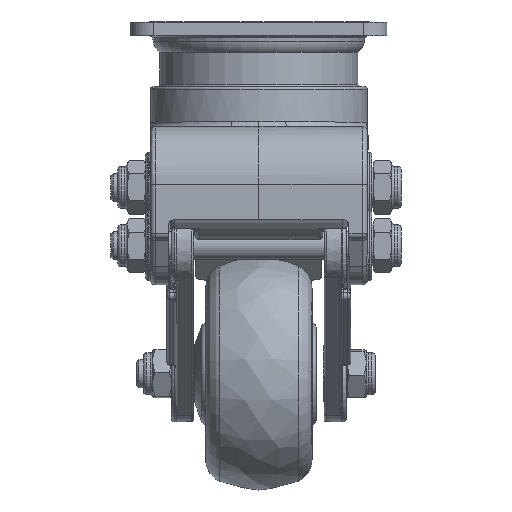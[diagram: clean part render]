
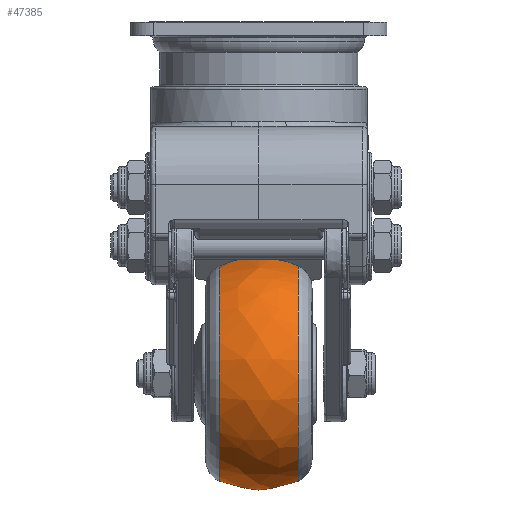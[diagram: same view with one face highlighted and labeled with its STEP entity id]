
A CAD part, left-side view. The second image highlights one B-rep face of the part: STEP entity #47385.
In plain terms, the highlighted free-form (B-spline) face has degree [2, 2] with [3, 9] control points.
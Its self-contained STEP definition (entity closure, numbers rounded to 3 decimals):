
#14=(
BOUNDED_SURFACE()
B_SPLINE_SURFACE(2,2,((#81413,#81414,#81415,#81416,#81417,#81418,#81419,
#81420,#81421),(#81422,#81423,#81424,#81425,#81426,#81427,#81428,#81429,
#81430),(#81431,#81432,#81433,#81434,#81435,#81436,#81437,#81438,#81439)),
 .UNSPECIFIED.,.F.,.T.,.F.)
B_SPLINE_SURFACE_WITH_KNOTS((3,3),(3,2,2,2,3),(-0.44,0.44),
(-3.142,-1.571,0.,1.571,3.142),
 .UNSPECIFIED.)
GEOMETRIC_REPRESENTATION_ITEM()
RATIONAL_B_SPLINE_SURFACE(((1.,0.707,1.,0.707,1.,
0.707,1.,0.707,1.),(0.905,0.64,
0.905,0.64,0.905,0.64,
0.905,0.64,0.905),(1.,0.707,
1.,0.707,1.,0.707,1.,0.707,1.)))
REPRESENTATION_ITEM('')
SURFACE()
);
#4895=CIRCLE('',#50713,23.096);
#4896=CIRCLE('',#50714,23.096);
#4897=CIRCLE('',#50715,20.);
#4898=CIRCLE('',#50716,23.096);
#4899=CIRCLE('',#50717,23.096);
#7128=FACE_OUTER_BOUND('',#9911,.T.);
#9911=EDGE_LOOP('',(#36842,#36843,#36844,#36845,#36846,#36847));
#20181=VERTEX_POINT('',#81440);
#20182=VERTEX_POINT('',#81441);
#20183=VERTEX_POINT('',#81444);
#20184=VERTEX_POINT('',#81446);
#25985=EDGE_CURVE('',#20181,#20182,#4895,.T.);
#25986=EDGE_CURVE('',#20182,#20181,#4896,.T.);
#25987=EDGE_CURVE('',#20182,#20183,#4897,.T.);
#25988=EDGE_CURVE('',#20183,#20184,#4898,.T.);
#25989=EDGE_CURVE('',#20184,#20183,#4899,.T.);
#36842=ORIENTED_EDGE('',*,*,#25985,.F.);
#36843=ORIENTED_EDGE('',*,*,#25986,.F.);
#36844=ORIENTED_EDGE('',*,*,#25987,.T.);
#36845=ORIENTED_EDGE('',*,*,#25988,.T.);
#36846=ORIENTED_EDGE('',*,*,#25989,.T.);
#36847=ORIENTED_EDGE('',*,*,#25987,.F.);
#47385=ADVANCED_FACE('',(#7128),#14,.F.);
#50713=AXIS2_PLACEMENT_3D('',#81442,#58771,#58772);
#50714=AXIS2_PLACEMENT_3D('',#81443,#58773,#58774);
#50715=AXIS2_PLACEMENT_3D('',#81445,#58775,#58776);
#50716=AXIS2_PLACEMENT_3D('',#81447,#58777,#58778);
#50717=AXIS2_PLACEMENT_3D('',#81448,#58779,#58780);
#58771=DIRECTION('center_axis',(0.,-1.,0.));
#58772=DIRECTION('ref_axis',(0.051,0.,-0.999));
#58773=DIRECTION('center_axis',(0.,-1.,0.));
#58774=DIRECTION('ref_axis',(0.051,0.,-0.999));
#58775=DIRECTION('center_axis',(-0.999,0.,
-0.051));
#58776=DIRECTION('ref_axis',(-0.051,0.,0.999));
#58777=DIRECTION('center_axis',(0.,-1.,0.));
#58778=DIRECTION('ref_axis',(0.051,0.,-0.999));
#58779=DIRECTION('center_axis',(0.,-1.,0.));
#58780=DIRECTION('ref_axis',(0.051,0.,-0.999));
#81413=CARTESIAN_POINT('Ctrl Pts',(-8.285,-21.078,-43.835));
#81414=CARTESIAN_POINT('Ctrl Pts',(-31.351,-21.078,
-45.016));
#81415=CARTESIAN_POINT('Ctrl Pts',(-30.169,-21.078,
-68.082));
#81416=CARTESIAN_POINT('Ctrl Pts',(-28.988,-21.078,
-91.148));
#81417=CARTESIAN_POINT('Ctrl Pts',(-5.922,-21.078,
-89.967));
#81418=CARTESIAN_POINT('Ctrl Pts',(17.145,-21.078,-88.785));
#81419=CARTESIAN_POINT('Ctrl Pts',(15.963,-21.078,-65.719));
#81420=CARTESIAN_POINT('Ctrl Pts',(14.782,-21.078,-42.653));
#81421=CARTESIAN_POINT('Ctrl Pts',(-8.285,-21.078,-43.835));
#81422=CARTESIAN_POINT('Ctrl Pts',(-8.49,-29.594,
-39.832));
#81423=CARTESIAN_POINT('Ctrl Pts',(-35.558,-29.594,
-41.219));
#81424=CARTESIAN_POINT('Ctrl Pts',(-34.172,-29.594,
-68.287));
#81425=CARTESIAN_POINT('Ctrl Pts',(-32.785,-29.594,
-95.356));
#81426=CARTESIAN_POINT('Ctrl Pts',(-5.717,-29.594,
-93.969));
#81427=CARTESIAN_POINT('Ctrl Pts',(21.352,-29.594,-92.583));
#81428=CARTESIAN_POINT('Ctrl Pts',(19.965,-29.594,-65.514));
#81429=CARTESIAN_POINT('Ctrl Pts',(18.579,-29.594,-38.446));
#81430=CARTESIAN_POINT('Ctrl Pts',(-8.49,-29.594,
-39.832));
#81431=CARTESIAN_POINT('Ctrl Pts',(-8.285,-38.11,
-43.835));
#81432=CARTESIAN_POINT('Ctrl Pts',(-31.351,-38.11,
-45.016));
#81433=CARTESIAN_POINT('Ctrl Pts',(-30.169,-38.11,
-68.082));
#81434=CARTESIAN_POINT('Ctrl Pts',(-28.988,-38.11,
-91.148));
#81435=CARTESIAN_POINT('Ctrl Pts',(-5.922,-38.11,-89.967));
#81436=CARTESIAN_POINT('Ctrl Pts',(17.145,-38.11,-88.785));
#81437=CARTESIAN_POINT('Ctrl Pts',(15.963,-38.11,-65.719));
#81438=CARTESIAN_POINT('Ctrl Pts',(14.782,-38.11,-42.653));
#81439=CARTESIAN_POINT('Ctrl Pts',(-8.285,-38.11,
-43.835));
#81440=CARTESIAN_POINT('',(-5.922,-38.11,-89.967));
#81441=CARTESIAN_POINT('',(-8.285,-38.11,-43.835));
#81442=CARTESIAN_POINT('Origin',(-7.103,-38.11,-66.901));
#81443=CARTESIAN_POINT('Origin',(-7.103,-38.11,-66.901));
#81444=CARTESIAN_POINT('',(-8.285,-21.078,-43.835));
#81445=CARTESIAN_POINT('Origin',(-7.359,-29.594,-61.907));
#81446=CARTESIAN_POINT('',(-5.922,-21.078,-89.967));
#81447=CARTESIAN_POINT('Origin',(-7.103,-21.078,-66.901));
#81448=CARTESIAN_POINT('Origin',(-7.103,-21.078,-66.901));
